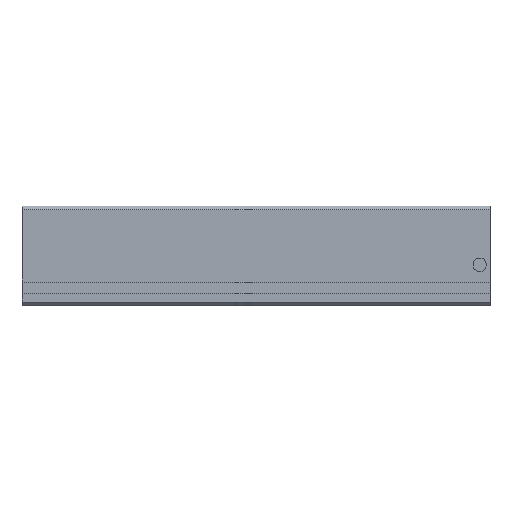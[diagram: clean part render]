
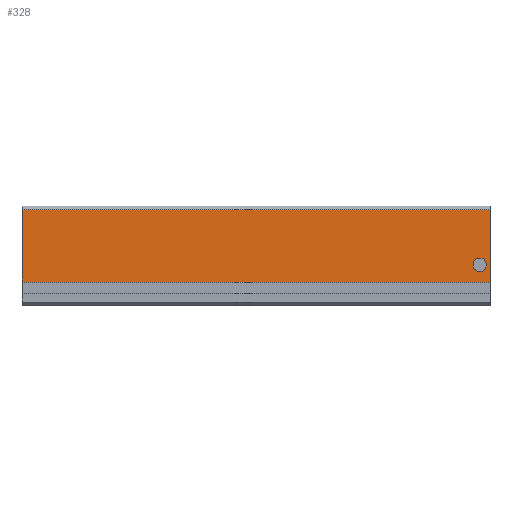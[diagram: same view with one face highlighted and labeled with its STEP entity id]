
A CAD part, top view. The second image highlights one B-rep face of the part: STEP entity #328.
In plain terms, the highlighted planar face has unit normal (0, 0, 1).
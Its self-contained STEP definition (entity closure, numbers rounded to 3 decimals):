
#72 = CARTESIAN_POINT ( 'NONE',  ( 130., 26.7, 0. ) ) ;
#120 = EDGE_CURVE ( 'NONE', #666, #1755, #1975, .T. ) ;
#134 = DIRECTION ( 'NONE',  ( -1., 0., 0. ) ) ;
#205 = EDGE_CURVE ( 'NONE', #666, #539, #429, .T. ) ;
#315 = CARTESIAN_POINT ( 'NONE',  ( 130., 26.7, 0. ) ) ;
#318 = CARTESIAN_POINT ( 'NONE',  ( 0., 0., 0. ) ) ;
#328 = ADVANCED_FACE ( 'NONE', ( #996, #2049 ), #794, .F. ) ;
#360 = CARTESIAN_POINT ( 'NONE',  ( 125.3, 11.392, 0. ) ) ;
#375 = EDGE_CURVE ( 'NONE', #1966, #539, #1020, .T. ) ;
#413 = EDGE_LOOP ( 'NONE', ( #595, #568 ) ) ;
#429 = LINE ( 'NONE', #1567, #1264 ) ;
#443 = CARTESIAN_POINT ( 'NONE',  ( 129., 11.392, 0. ) ) ;
#486 = ORIENTED_EDGE ( 'NONE', *, *, #205, .F. ) ;
#539 = VERTEX_POINT ( 'NONE', #1046 ) ;
#568 = ORIENTED_EDGE ( 'NONE', *, *, #577, .F. ) ;
#577 = EDGE_CURVE ( 'NONE', #1248, #871, #1827, .T. ) ;
#589 = VECTOR ( 'NONE', #826, 1000. ) ;
#595 = ORIENTED_EDGE ( 'NONE', *, *, #1850, .F. ) ;
#666 = VERTEX_POINT ( 'NONE', #315 ) ;
#794 = PLANE ( 'NONE',  #810 ) ;
#810 = AXIS2_PLACEMENT_3D ( 'NONE', #2061, #1915, #134 ) ;
#826 = DIRECTION ( 'NONE',  ( 1., 0., 0. ) ) ;
#871 = VERTEX_POINT ( 'NONE', #360 ) ;
#910 = DIRECTION ( 'NONE',  ( -1., 0., 0. ) ) ;
#959 = AXIS2_PLACEMENT_3D ( 'NONE', #1587, #1795, #1589 ) ;
#996 = FACE_BOUND ( 'NONE', #413, .T. ) ;
#1020 = LINE ( 'NONE', #1630, #589 ) ;
#1046 = CARTESIAN_POINT ( 'NONE',  ( 130., 6.6, 0. ) ) ;
#1049 = EDGE_LOOP ( 'NONE', ( #486, #1687, #1488, #1651 ) ) ;
#1099 = DIRECTION ( 'NONE',  ( 0., -1., 0. ) ) ;
#1146 = VECTOR ( 'NONE', #1239, 1000. ) ;
#1202 = CARTESIAN_POINT ( 'NONE',  ( 0., 6.6, 0. ) ) ;
#1239 = DIRECTION ( 'NONE',  ( -1., 0., 0. ) ) ;
#1248 = VERTEX_POINT ( 'NONE', #443 ) ;
#1264 = VECTOR ( 'NONE', #1099, 1000. ) ;
#1338 = CARTESIAN_POINT ( 'NONE',  ( 0., 26.7, 0. ) ) ;
#1366 = EDGE_CURVE ( 'NONE', #1755, #1966, #2059, .T. ) ;
#1380 = AXIS2_PLACEMENT_3D ( 'NONE', #1538, #1849, #910 ) ;
#1395 = VECTOR ( 'NONE', #1749, 1000. ) ;
#1488 = ORIENTED_EDGE ( 'NONE', *, *, #1366, .T. ) ;
#1538 = CARTESIAN_POINT ( 'NONE',  ( 127.15, 11.392, 0. ) ) ;
#1567 = CARTESIAN_POINT ( 'NONE',  ( 130., 0., 0. ) ) ;
#1587 = CARTESIAN_POINT ( 'NONE',  ( 127.15, 11.392, 0. ) ) ;
#1589 = DIRECTION ( 'NONE',  ( -1., 0., 0. ) ) ;
#1630 = CARTESIAN_POINT ( 'NONE',  ( 0., 6.6, 0. ) ) ;
#1651 = ORIENTED_EDGE ( 'NONE', *, *, #375, .T. ) ;
#1687 = ORIENTED_EDGE ( 'NONE', *, *, #120, .T. ) ;
#1749 = DIRECTION ( 'NONE',  ( 0., -1., 0. ) ) ;
#1755 = VERTEX_POINT ( 'NONE', #1338 ) ;
#1795 = DIRECTION ( 'NONE',  ( 0., 0., 1. ) ) ;
#1827 = CIRCLE ( 'NONE', #1380, 1.85 ) ;
#1849 = DIRECTION ( 'NONE',  ( 0., 0., 1. ) ) ;
#1850 = EDGE_CURVE ( 'NONE', #871, #1248, #1965, .T. ) ;
#1915 = DIRECTION ( 'NONE',  ( 0., 0., -1. ) ) ;
#1965 = CIRCLE ( 'NONE', #959, 1.85 ) ;
#1966 = VERTEX_POINT ( 'NONE', #1202 ) ;
#1975 = LINE ( 'NONE', #72, #1146 ) ;
#2049 = FACE_OUTER_BOUND ( 'NONE', #1049, .T. ) ;
#2059 = LINE ( 'NONE', #318, #1395 ) ;
#2061 = CARTESIAN_POINT ( 'NONE',  ( 130., 0., 0. ) ) ;
